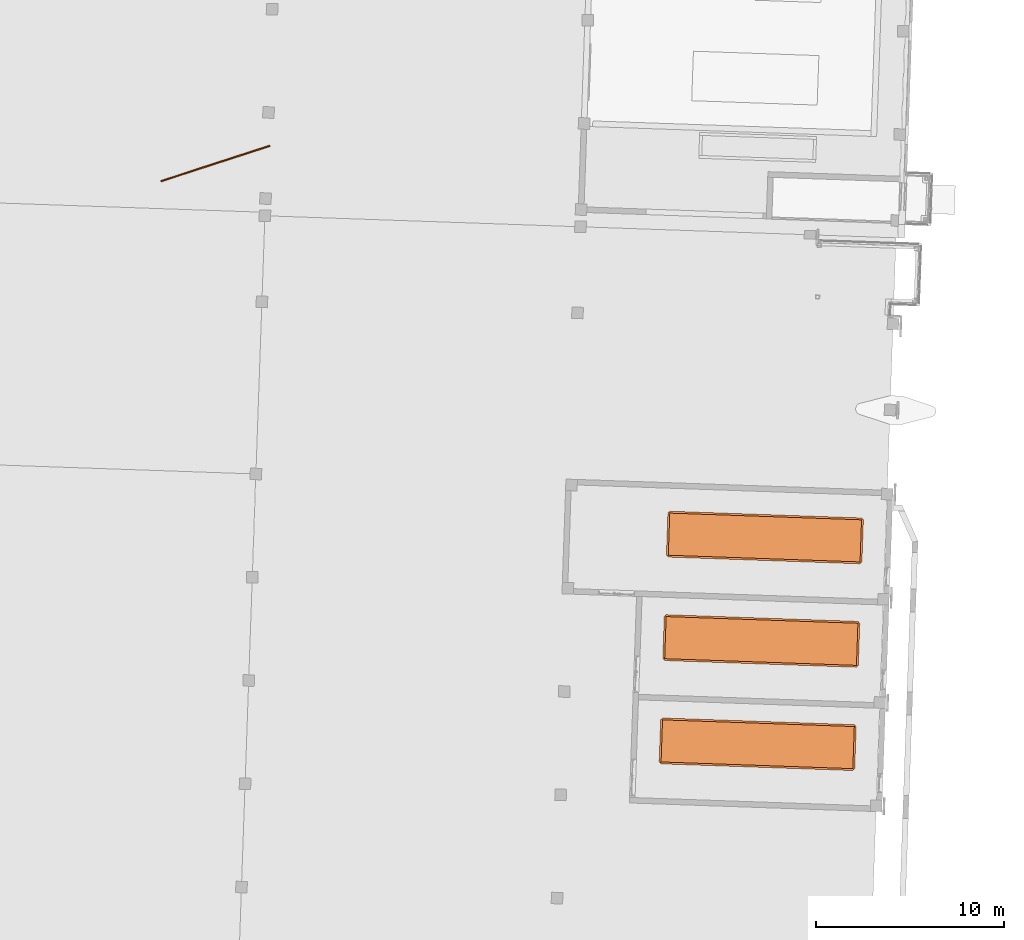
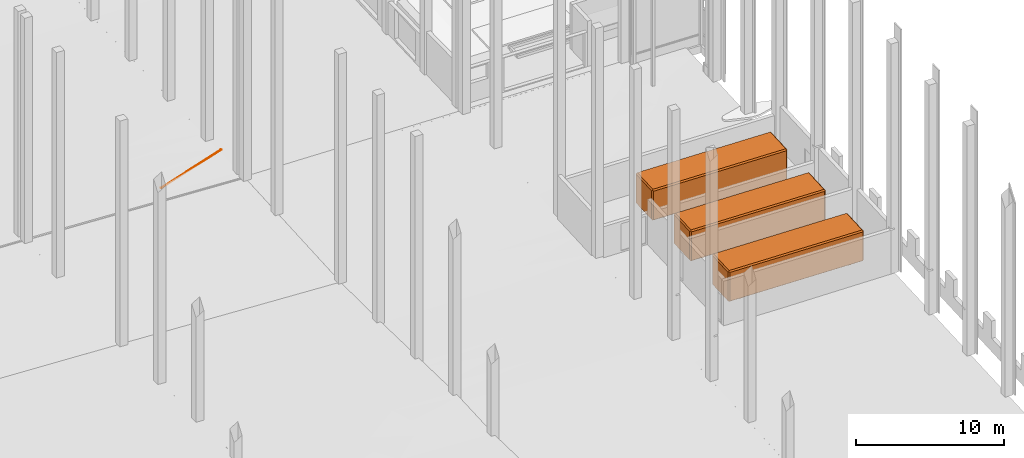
# One storey, part 43 of 44: 4 proxies.
"""IFC2X3 building model written with IfcOpenShell, lengths in feet."""

import ifcopenshell
import ifcopenshell.guid

model = None  # the IFC model being written
_history = None  # IfcOwnerHistory: only IFC2X3 demands one
_inside = {}  # id of a spatial element -> (the spatial element, [elements in it])
_under = {}  # id of a project, library or spatial element -> (it, [spatial elements below it])
_declared = {}  # id of a project -> (the project, [libraries it declares])
_typed = {}  # id of a type object -> (the type object, [elements of that type])
_made_of = {}  # id of a material, layer set ... -> (it, [elements and type objects made of it])


def new_model(schema):
    """Start an empty IFC model of exactly this schema.

    Asked for "IFC4X3", IfcOpenShell would pick the latest addendum, in which some entities
    have other attributes; the version numbers below select the first issue.
    IFC2X3 requires an IfcOwnerHistory on every rooted entity: one is made here for all.
    """
    global model, _history
    if schema == "IFC4X3":
        model = ifcopenshell.file(schema_version=(4, 3, 0, 0))
    else:
        model = ifcopenshell.file(schema=schema)
    _inside.clear()
    _under.clear()
    _declared.clear()
    _typed.clear()
    _made_of.clear()
    _history = None
    if model.schema == "IFC2X3":
        org = make("IfcOrganization", Name="unknown")
        user = make(
            "IfcPersonAndOrganization",
            ThePerson=make("IfcPerson", FamilyName="unknown"),
            TheOrganization=org,
        )
        app = make(
            "IfcApplication",
            ApplicationDeveloper=org,
            Version="unknown",
            ApplicationFullName="unknown",
            ApplicationIdentifier="unknown",
        )
        _history = make(
            "IfcOwnerHistory",
            OwningUser=user,
            OwningApplication=app,
            ChangeAction="ADDED",
            CreationDate=0,
        )
    return model


def make(cls, **values):
    """One entity of the class cls with the attributes given. An attribute that is None is left unset."""
    return model.create_entity(
        cls, **{name: value for name, value in values.items() if value is not None}
    )


def entity(cls, *values):
    """Any entity or typed value of the class cls, its attributes in the order of the schema. None: left unset."""
    e = model.create_entity(cls)
    for i, value in enumerate(values):
        if value is not None:
            e[i] = value
    return e


def rooted(cls, **values):
    """An entity with a GlobalId (a new one), such as an element, a storey or a relation."""
    return make(cls, GlobalId=ifcopenshell.guid.new(), OwnerHistory=_history, **values)


def si_unit(unit_type, name, prefix=None):
    """IfcSIUnit, for example si_unit("LENGTHUNIT", "METRE", prefix="MILLI")."""
    return make("IfcSIUnit", UnitType=unit_type, Prefix=prefix, Name=name)


def converted_unit(unit_type, name, factor, base, dimensions=None, offset=None):
    """IfcConversionBasedUnit, such as the inch: factor (a typed value) times the base unit."""
    return make(
        "IfcConversionBasedUnit"
        if offset is None
        else "IfcConversionBasedUnitWithOffset",
        ConversionOffset=offset,
        Dimensions=None
        if dimensions is None
        else entity("IfcDimensionalExponents", *dimensions),
        UnitType=unit_type,
        Name=name,
        ConversionFactor=make(
            "IfcMeasureWithUnit", ValueComponent=factor, UnitComponent=base
        ),
    )


def derived_unit(unit_type, elements):
    """IfcDerivedUnit: a product of units, each with its exponent."""
    return make(
        "IfcDerivedUnit",
        Elements=[
            make("IfcDerivedUnitElement", Unit=unit, Exponent=power)
            for unit, power in elements
        ],
        UnitType=unit_type,
    )


def assignment(units):
    """IfcUnitAssignment: the units of a project."""
    return None if units is None else make("IfcUnitAssignment", Units=units)


def point(xyz):
    """IfcCartesianPoint."""
    return None if xyz is None else make("IfcCartesianPoint", Coordinates=xyz)


def direction(xyz):
    """IfcDirection."""
    return None if xyz is None else make("IfcDirection", DirectionRatios=xyz)


def frame(location, z_axis=None, x_axis=None):
    """IfcAxis2Placement3D, a coordinate frame: its origin and axes. An axis left out is left unset."""
    return make(
        "IfcAxis2Placement3D",
        Location=point(location),
        Axis=direction(z_axis),
        RefDirection=direction(x_axis),
    )


def frame_2d(location, x_axis=None):
    """IfcAxis2Placement2D, a coordinate frame in the plane: its origin and x axis."""
    return make(
        "IfcAxis2Placement2D", Location=point(location), RefDirection=direction(x_axis)
    )


def origin():
    """The frame at (0, 0, 0) with its axes left unset."""
    return frame((0.0, 0.0, 0.0))


def place(relative_to, where):
    """IfcLocalPlacement: puts the frame where relative to a parent placement (None: the world)."""
    return make(
        "IfcLocalPlacement", PlacementRelTo=relative_to, RelativePlacement=where
    )


def context(
    kind, dimensions, precision=None, world=None, true_north=None, identifier=None
):
    """IfcGeometricRepresentationContext, for example the 3D "Model" context."""
    return make(
        "IfcGeometricRepresentationContext",
        ContextIdentifier=identifier,
        ContextType=kind,
        CoordinateSpaceDimension=dimensions,
        Precision=precision,
        WorldCoordinateSystem=world,
        TrueNorth=true_north,
    )


def subcontext(parent, identifier, kind, view, scale=None):
    """IfcGeometricRepresentationSubContext, for example "Body" below "Model"."""
    return make(
        "IfcGeometricRepresentationSubContext",
        ContextIdentifier=identifier,
        ContextType=kind,
        ParentContext=parent,
        TargetScale=scale,
        TargetView=view,
    )


def project(units=None, contexts=None):
    """IfcProject with its units and contexts."""
    return rooted(
        "IfcProject",
        Name="project",
        RepresentationContexts=contexts,
        UnitsInContext=assignment(units),
    )


def spatial(cls, under=None, at=None, **own):
    """A site, building, storey or space (cls), placed at a placement, below another one or the project."""
    s = rooted(cls, ObjectPlacement=at, **own)
    if under is not None:
        _under.setdefault(under.id(), (under, []))[1].append(s)
    return s


def profile(cls, at=None, kind="AREA", **sizes):
    """A parametric profile (cls). Its sizes go by their IFC names, for example OverallWidth=200.0."""
    return make(cls, ProfileType=kind, Position=at, **sizes)


def rectangle(**sizes):
    """IfcRectangleProfileDef."""
    return profile("IfcRectangleProfileDef", **sizes)


def extrude(swept, where, along, depth):
    """IfcExtrudedAreaSolid: the profile swept, set in the frame where, extruded along a direction by depth."""
    return make(
        "IfcExtrudedAreaSolid",
        SweptArea=swept,
        Position=where,
        ExtrudedDirection=direction(along),
        Depth=depth,
    )


def faces_of(points, faces, orient=None, outer=None):
    """IfcFace entities. A face is a list of loops; a loop is a list of indices into points, from 0.

    orient and outer hold one flag for each loop. By default every Orientation is true, the
    first loop of a face is its IfcFaceOuterBound and the others are IfcFaceBound.
    """
    made = []
    for i, loops in enumerate(faces):
        bounds = []
        for j, loop in enumerate(loops):
            is_outer = j == 0 if outer is None else outer[i][j]
            bounds.append(
                make(
                    "IfcFaceOuterBound" if is_outer else "IfcFaceBound",
                    Bound=make("IfcPolyLoop", Polygon=[points[k] for k in loop]),
                    Orientation=True if orient is None else orient[i][j],
                )
            )
        made.append(make("IfcFace", Bounds=bounds))
    return made


def face_set(faces, orient=None, outer=None):
    """The faces of one IfcConnectedFaceSet. surface_model builds it on its shared points."""
    return ("IfcConnectedFaceSet", faces, orient, outer)


def surface_model(cls, points, shells):
    """IfcFaceBasedSurfaceModel or IfcShellBasedSurfaceModel (cls): surfaces that need not close."""
    shared = [point(p) for p in points]
    made = [make(c, CfsFaces=faces_of(shared, fs, o, b)) for c, fs, o, b in shells]
    if cls == "IfcFaceBasedSurfaceModel":
        return make(cls, FbsmFaces=made)
    return make(cls, SbsmBoundary=made)


def shape(context_of_items, identifier, shape_type, items):
    """IfcShapeRepresentation: the items that make up one representation, for example the "Body"."""
    return make(
        "IfcShapeRepresentation",
        ContextOfItems=context_of_items,
        RepresentationIdentifier=identifier,
        RepresentationType=shape_type,
        Items=items,
    )


def source(mapping_origin, context_of_items, identifier, shape_type, items):
    """IfcRepresentationMap: a shape defined once, which mapped items show again and again."""
    return make(
        "IfcRepresentationMap",
        MappingOrigin=mapping_origin,
        MappedRepresentation=shape(context_of_items, identifier, shape_type, items),
    )


def transform(
    local_origin,
    x_axis=None,
    y_axis=None,
    z_axis=None,
    scale=None,
    scale2=None,
    scale3=None,
    uniform=True,
):
    """IfcCartesianTransformationOperator3D, or its non-uniform kind. x_axis, y_axis, z_axis: its Axis1, 2, 3."""
    if uniform:
        return make(
            "IfcCartesianTransformationOperator3D",
            Axis1=direction(x_axis),
            Axis2=direction(y_axis),
            LocalOrigin=point(local_origin),
            Scale=scale,
            Axis3=direction(z_axis),
        )
    return make(
        "IfcCartesianTransformationOperator3DnonUniform",
        Axis1=direction(x_axis),
        Axis2=direction(y_axis),
        LocalOrigin=point(local_origin),
        Scale=scale,
        Axis3=direction(z_axis),
        Scale2=scale2,
        Scale3=scale3,
    )


def mapped(mapping_source, mapping_target):
    """IfcMappedItem: shows the shape of a source again, moved by a transform."""
    return make(
        "IfcMappedItem", MappingSource=mapping_source, MappingTarget=mapping_target
    )


def material(Name=None, Category=None):
    """IfcMaterial."""
    return make("IfcMaterial", Name=Name, Category=Category)


def made_of(thing, what):
    """Note that an element or type object is made of a material, layer set ...; save() writes the relation."""
    if what is not None:
        _made_of.setdefault(what.id(), (what, []))[1].append(thing)
    return thing


def type_object(cls, material=None, **own):
    """A type object (cls), such as IfcWallType, which elements share."""
    return made_of(rooted(cls, **own), material)


def type_shapes(of_type, sources):
    """Give a type object the sources (RepresentationMaps) that its elements show as mapped items."""
    of_type.RepresentationMaps = sources


def element(
    cls,
    number,
    at=None,
    inside=None,
    cuts=None,
    type_object=None,
    material=None,
    context=None,
    identifier="Body",
    shape_type=None,
    held_by="IfcProductDefinitionShape",
    body=None,
    shapes=None,
    **own,
):
    """One element of the class cls, such as IfcWall. Its Tag is "e" and its number.

    at: its placement. inside: the storey or other place that contains it. cuts: it is an
    opening in that element (IfcRelVoidsElement). A single representation is given by context,
    identifier, shape_type and body (its items); several are given by shapes. held_by: the class
    of the entity that holds the representations. save() writes the other relations.
    """
    e = rooted(cls, Tag="e%d" % number, ObjectPlacement=at, **own)
    if body is not None:
        shapes = [shape(context, identifier, shape_type, body)]
    if shapes is not None:
        e.Representation = make(held_by, Representations=shapes)
    if inside is not None:
        _inside.setdefault(inside.id(), (inside, []))[1].append(e)
    if cuts is not None:
        rooted(
            "IfcRelVoidsElement", RelatingBuildingElement=cuts, RelatedOpeningElement=e
        )
    if type_object is not None:
        _typed.setdefault(type_object.id(), (type_object, []))[1].append(e)
    return made_of(e, material)


def aggregate(whole, parts):
    """IfcRelAggregates: a whole, such as a stair, and the parts it consists of."""
    return rooted("IfcRelAggregates", RelatingObject=whole, RelatedObjects=parts)


def save(model, path):
    """Write the relations noted so far, then the file.

    IfcRelAggregates (storeys below a building ...), IfcRelContainedInSpatialStructure (elements
    in a storey), IfcRelDefinesByType, IfcRelAssociatesMaterial and IfcRelDeclares: one each for
    every whole, place, type object, material and project.
    """
    for whole, parts in _under.values():
        aggregate(whole, parts)
    for where, things in _inside.values():
        rooted(
            "IfcRelContainedInSpatialStructure",
            RelatedElements=things,
            RelatingStructure=where,
        )
    for kind, things in _typed.values():
        rooted("IfcRelDefinesByType", RelatedObjects=things, RelatingType=kind)
    for what, things in _made_of.values():
        rooted("IfcRelAssociatesMaterial", RelatedObjects=things, RelatingMaterial=what)
    for by, libraries in _declared.values():
        rooted("IfcRelDeclares", RelatingContext=by, RelatedDefinitions=libraries)
    model.write(path)


model = new_model("IFC2X3")

# Units and contexts
model_context = context("Model", 3, precision=0.0001, world=origin(), true_north=direction((0.999390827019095, 0.0348994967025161)))
body_context = subcontext(model_context, "Body", "Model", "MODEL_VIEW")
ifc_project = project(units=[converted_unit("LENGTHUNIT", "FOOT", entity("IfcRatioMeasure", 0.3048), si_unit("LENGTHUNIT", "METRE"), dimensions=[1, 0, 0, 0, 0, 0, 0]), converted_unit("AREAUNIT", "SQUARE FOOT", entity("IfcRatioMeasure", 0.09290304), si_unit("AREAUNIT", "SQUARE_METRE"), dimensions=[2, 0, 0, 0, 0, 0, 0]), converted_unit("VOLUMEUNIT", "CUBIC FOOT", entity("IfcRatioMeasure", 0.028316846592), si_unit("VOLUMEUNIT", "CUBIC_METRE"), dimensions=[3, 0, 0, 0, 0, 0, 0]), converted_unit("PLANEANGLEUNIT", "DEGREE", entity("IfcRatioMeasure", 0.0174532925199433), si_unit("PLANEANGLEUNIT", "RADIAN"), dimensions=[0, 0, 0, 0, 0, 0, 0]), si_unit("MASSUNIT", "GRAM", prefix="KILO"), si_unit("TIMEUNIT", "SECOND"), si_unit("FREQUENCYUNIT", "HERTZ"), si_unit("THERMODYNAMICTEMPERATUREUNIT", "DEGREE_CELSIUS"), derived_unit("THERMALTRANSMITTANCEUNIT", [(si_unit("MASSUNIT", "GRAM", prefix="KILO"), 1), (si_unit("THERMODYNAMICTEMPERATUREUNIT", "KELVIN"), -1), (si_unit("TIMEUNIT", "SECOND"), -3)]), derived_unit("VOLUMETRICFLOWRATEUNIT", [(si_unit("LENGTHUNIT", "METRE"), 3), (si_unit("TIMEUNIT", "SECOND"), -1)]), si_unit("ELECTRICCURRENTUNIT", "AMPERE"), si_unit("ELECTRICVOLTAGEUNIT", "VOLT"), si_unit("POWERUNIT", "WATT"), si_unit("FORCEUNIT", "NEWTON"), si_unit("ILLUMINANCEUNIT", "LUX"), si_unit("LUMINOUSFLUXUNIT", "LUMEN"), si_unit("LUMINOUSINTENSITYUNIT", "CANDELA"), derived_unit("USERDEFINED", [(si_unit("MASSUNIT", "GRAM", prefix="KILO"), -1), (si_unit("LENGTHUNIT", "METRE"), -2), (si_unit("TIMEUNIT", "SECOND"), 3), (si_unit("LUMINOUSFLUXUNIT", "LUMEN"), 1)]), derived_unit("LINEARVELOCITYUNIT", [(si_unit("LENGTHUNIT", "METRE"), 1), (si_unit("TIMEUNIT", "SECOND"), -1)]), si_unit("PRESSUREUNIT", "PASCAL"), derived_unit("USERDEFINED", [(si_unit("LENGTHUNIT", "METRE"), -2), (si_unit("MASSUNIT", "GRAM", prefix="KILO"), 1), (si_unit("TIMEUNIT", "SECOND"), -2)])], contexts=[model_context])

# Site, building, storey
site_placement = place(None, frame((892.518771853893, 322.38689265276, 0.00393700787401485), z_axis=(0.0, 0.0, 1.0), x_axis=(0.0348994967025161, 0.999390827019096, 0.0)))
site = spatial("IfcSite", under=ifc_project, at=site_placement, Name="Default", CompositionType="ELEMENT")
building_placement = place(site_placement, origin())
building = spatial("IfcBuilding", under=site, at=building_placement, CompositionType="ELEMENT")
storey_placement = place(building_placement, frame((0.0, 0.0, 544.75)))
storey = spatial("IfcBuildingStorey", under=building, at=storey_placement, Name="Exist Garage - Ground Level", CompositionType="ELEMENT", Elevation=544.75)

# Proxy
ifc_material_1 = material(Name="Parking Stripe")
shared_shape_1 = source(origin(), body_context, "Body", "SweptSolid", [
    extrude(rectangle(XDim=0.250000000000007, YDim=20.0, at=frame_2d((-1.77635683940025e-15, 0.0), x_axis=(1.0, 0.0))), frame((4.15013795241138, -7.18101923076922, 0.0), z_axis=(0.0, 0.0, 1.0), x_axis=(-1.0, 0.0, 0.0)), (0.0, 0.0, 1.0), 0.00520833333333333),
])
proxy_1_placement = place(storey_placement, frame((105.364389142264, 361.028888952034, 0.0), z_axis=(0.0, 0.0, 1.0), x_axis=(0.939693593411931, 0.34201747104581, 0.0)))
element("IfcBuildingElementProxy", 1, at=proxy_1_placement, inside=storey, material=ifc_material_1, Name="Pavement Stripe:18'", ObjectType="18'", context=body_context, shape_type="MappedRepresentation", body=[
    mapped(shared_shape_1, transform((0.0, 0.0, 0.0), scale=1.0)),
])

# Space
space_1_placement = place(storey_placement, origin())
space_1 = spatial("IfcSpace", under=storey, at=space_1_placement, Name="06", CompositionType="ELEMENT", InteriorOrExteriorSpace="INTERNAL")

# Proxy
ifc_material_2 = material(Name="Conc Shell")
building_element_proxy_type = type_object("IfcBuildingElementProxyType", Name="Convault Oil Tank", PredefinedType="NOTDEFINED", material=ifc_material_2)
shared_shape_2 = source(origin(), body_context, "Body", "SurfaceModel", [
    surface_model("IfcFaceBasedSurfaceModel", [(-14.0416666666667, -3.33333333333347, 0.0), (-13.2083333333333, -3.33333333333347, 0.0), (-13.2083333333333, -3.33333333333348, 0.333333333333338), (-14.0416666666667, -3.33333333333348, 0.333333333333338), (-14.0416666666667, 3.33333333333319, 0.0), (-13.2083333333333, 3.33333333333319, 0.0), (-13.2083333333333, 3.33333333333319, 0.33333333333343), (-14.0416666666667, 3.33333333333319, 0.33333333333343), (14.0416666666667, 3.33333333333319, 0.0), (13.2083333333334, 3.33333333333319, 0.0), (13.2083333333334, 3.33333333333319, 0.333333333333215), (14.0416666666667, 3.33333333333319, 0.333333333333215), (14.0416666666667, -3.33333333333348, 0.333333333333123), (14.0416666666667, -3.33333333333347, 0.0), (13.2083333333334, -3.33333333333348, 0.333333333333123), (13.2083333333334, -3.33333333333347, 0.0), (-16.7083333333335, -3.66666666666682, 8.74999999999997), (16.7083333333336, -3.66666666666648, 8.74999999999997), (16.7083333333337, 3.66666666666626, 8.74999999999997), (-16.7083333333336, 3.6666666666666, 8.74999999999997), (16.7083333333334, -3.66666666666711, 0.333333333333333), (-16.7083333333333, -3.66666666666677, 0.333333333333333), (-16.7083333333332, 3.66666666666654, 0.333333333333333), (16.7083333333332, 3.66666666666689, 0.333333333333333), (16.7083333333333, 4.0, 8.41666666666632), (16.7083333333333, 4.0, 0.666666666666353), (-16.7083333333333, 4.0, 0.666666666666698), (-16.7083333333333, 4.0, 8.41666666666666), (-16.875, 3.83333333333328, 0.500000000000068), (-17.0416666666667, 3.66666666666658, 0.666666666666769), (-17.0416666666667, 3.66666666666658, 8.41666666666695), (-16.8750000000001, 3.8333333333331, 8.58333333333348), (-17.0416666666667, -3.66666666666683, 0.666666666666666), (-17.0416666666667, -3.66666666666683, 8.41666666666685), (-16.7083333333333, -4.0, 0.666666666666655), (-16.7083333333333, -4.0, 8.4166666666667), (-16.8750000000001, -3.83333333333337, 8.58333333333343), (-16.875, -3.83333333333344, 0.500000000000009), (16.7083333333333, -4.0, 0.666666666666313), (16.7083333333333, -4.0, 8.41666666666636), (16.8749999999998, -3.83333333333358, 0.499999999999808), (17.0416666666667, -3.66666666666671, 0.666666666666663), (17.0416666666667, -3.66666666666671, 8.41666666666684), (16.8750000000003, -3.83333333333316, 8.58333333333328), (17.0416666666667, 3.66666666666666, 0.666666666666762), (17.0416666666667, 3.66666666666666, 8.41666666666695), (16.8750000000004, 3.83333333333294, 8.58333333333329), (16.8749999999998, 3.83333333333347, 0.499999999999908), (16.5416666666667, 3.49999999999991, 8.25000000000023), (-16.5416666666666, 3.49999999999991, 8.25000000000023), (-16.5416666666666, -3.50000000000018, 8.25000000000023), (16.5416666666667, -3.50000000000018, 8.25000000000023), (16.5416666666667, 3.49999999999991, 0.833333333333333), (16.5416666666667, -3.50000000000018, 0.833333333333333), (-16.5416666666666, -3.50000000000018, 0.833333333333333), (-16.5416666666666, 3.49999999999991, 0.833333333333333)], [face_set([[[0, 1, 2, 3]], [[1, 0, 4, 5]], [[2, 1, 5, 6]], [[3, 2, 6, 7]], [[0, 3, 7, 4]], [[4, 7, 6, 5]]]), face_set([[[8, 9, 10, 11]], [[12, 13, 8, 11]], [[14, 12, 11, 10]], [[15, 14, 10, 9]], [[13, 15, 9, 8]], [[13, 12, 14, 15]]]), face_set([[[16, 17, 18, 19]], [[20, 21, 22, 23]], [[24, 25, 26, 27]], [[27, 26, 28, 29, 30, 31]], [[30, 29, 32, 33]], [[34, 35, 36, 33, 32, 37]], [[35, 34, 38, 39]], [[39, 38, 40, 41, 42, 43]], [[42, 41, 44, 45]], [[25, 24, 46, 45, 44, 47]], [[24, 27, 31, 19, 18, 46]], [[35, 39, 43, 17, 16, 36]], [[26, 25, 47, 23, 22, 28]], [[38, 34, 37, 21, 20, 40]], [[16, 19, 31, 30, 33, 36]], [[18, 17, 43, 42, 45, 46]], [[22, 21, 37, 32, 29, 28]], [[20, 23, 47, 44, 41, 40]]]), face_set([[[48, 49, 50, 51]], [[52, 53, 54, 55]], [[48, 52, 55, 49]], [[49, 55, 54, 50]], [[50, 54, 53, 51]], [[51, 53, 52, 48]]])]),
])
type_shapes(building_element_proxy_type, [shared_shape_2])
proxy_2_placement = place(space_1_placement, frame((49.9585042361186, 257.77437014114, -0.520833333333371), z_axis=(0.0, 0.0, 1.0), x_axis=(0.0, -1.0, 0.0)))
element("IfcBuildingElementProxy", 2, at=proxy_2_placement, inside=space_1, type_object=building_element_proxy_type, material=ifc_material_2, Name="Convault Oil Tank:Convault Oil Tank", ObjectType="Convault Oil Tank", context=body_context, shape_type="MappedRepresentation", body=[
    mapped(shared_shape_2, transform((0.0, 0.0, 0.0), scale=1.0)),
])

# Space
space_2_placement = place(storey_placement, origin())
space_2 = spatial("IfcSpace", under=storey, at=space_2_placement, Name="07", CompositionType="ELEMENT", InteriorOrExteriorSpace="INTERNAL")

# Proxy
proxy_3_placement = place(space_2_placement, frame((31.9272542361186, 257.77437014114, -0.375), z_axis=(0.0, 0.0, 1.0), x_axis=(0.0, -1.0, 0.0)))
element("IfcBuildingElementProxy", 3, at=proxy_3_placement, inside=space_2, type_object=building_element_proxy_type, material=ifc_material_2, Name="Convault Oil Tank:Convault Oil Tank", ObjectType="Convault Oil Tank", context=body_context, shape_type="MappedRepresentation", body=[
    mapped(shared_shape_2, transform((0.0, 0.0, 0.0), scale=1.0)),
])

# Space
space_3_placement = place(storey_placement, origin())
space_3 = spatial("IfcSpace", under=storey, at=space_3_placement, Name="08", CompositionType="ELEMENT", InteriorOrExteriorSpace="INTERNAL")

# Proxy
proxy_4_placement = place(space_3_placement, frame((13.9272542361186, 257.77437014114, -0.25), z_axis=(0.0, 0.0, 1.0), x_axis=(0.0, -1.0, 0.0)))
element("IfcBuildingElementProxy", 4, at=proxy_4_placement, inside=space_3, type_object=building_element_proxy_type, material=ifc_material_2, Name="Convault Oil Tank:Convault Oil Tank", ObjectType="Convault Oil Tank", context=body_context, shape_type="MappedRepresentation", body=[
    mapped(shared_shape_2, transform((0.0, 0.0, 0.0), scale=1.0)),
])

save(model, "model.ifc")
